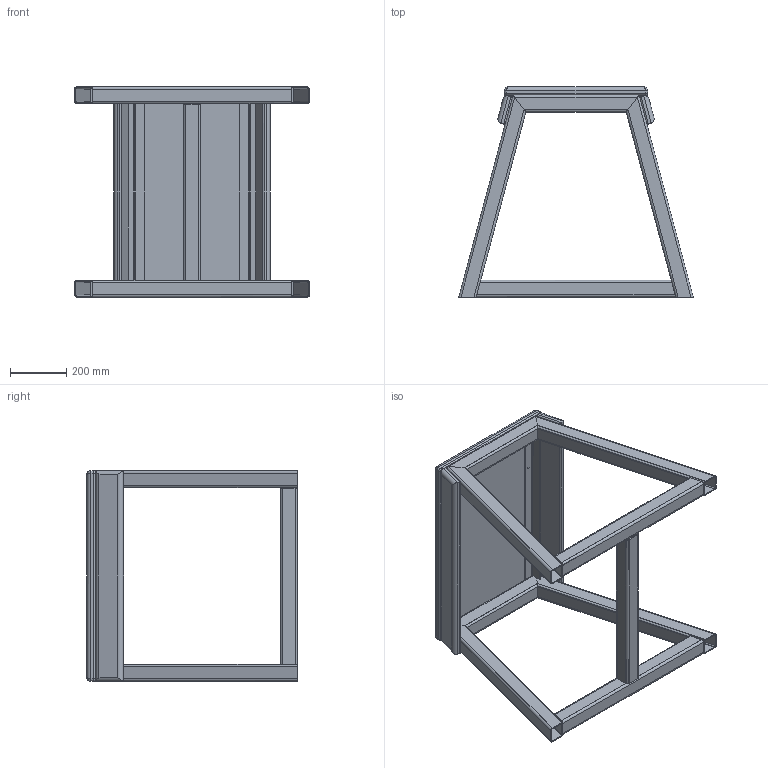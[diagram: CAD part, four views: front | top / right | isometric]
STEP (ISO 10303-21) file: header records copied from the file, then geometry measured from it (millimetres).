
FILE_DESCRIPTION(/* description */ (''),/* implementation_level */ '2;1');
FILE_NAME(/* name */ 'OGPB750_3D_Low.step',/* time_stamp */ '2025-11-11T16:10:55+02:00',/* author */ (''),/* organization */ (''),/* preprocessor_version */ 'ST-DEVELOPER v20.1',/* originating_system */ 'Autodesk Translation Framework v14.21.0.0',/* authorisation */ '');
FILE_SCHEMA (('AUTOMOTIVE_DESIGN { 1 0 10303 214 3 1 1 }'));
Length unit declared in the file: millimetre
Products named in the file (1): OGPB750_3D_Low
Bounding box: 835.9 x 750.1 x 750 mm (x, y, z)
Volume: 20868481.3 mm3; surface area: 3839304.3 mm2
Topology: 14 solids, 14 shells, 272 faces, 660 edges, 420 vertices
Faces by surface type: plane 140, cylinder 124, bspline 8
Full cylindrical faces by diameter (mm): 8.5 x8, 11 x4, 11.5 x8
Entity records: 8230 total; most frequent: CARTESIAN_POINT 1569, DIRECTION 1422, ORIENTED_EDGE 1312, EDGE_CURVE 656, AXIS2_PLACEMENT_3D 501, LINE 420, VECTOR 420, VERTEX_POINT 420
